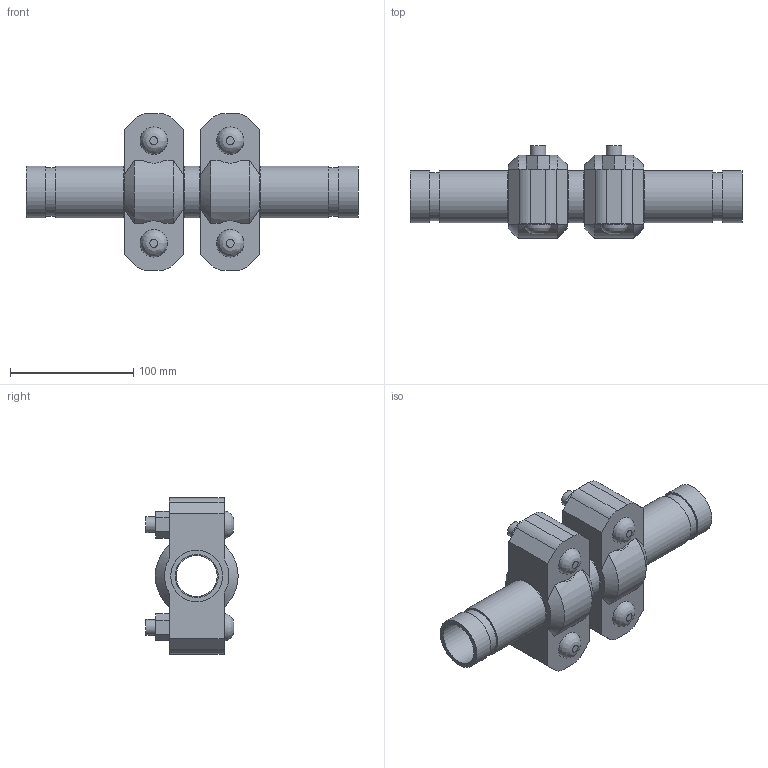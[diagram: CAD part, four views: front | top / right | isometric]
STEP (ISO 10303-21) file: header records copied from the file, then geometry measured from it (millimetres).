
FILE_DESCRIPTION(/* description */ ('VIC EXPANSION JOINT 2 COUPLINGS EXPANDED STYLE 155 (OGS)','CAx-IF Rec.Pracs.---Representation and Presentation of Product Manufacturing Information (PMI)---4.0---2014-10-13'),/* implementation_level */ '2;1');
FILE_NAME(/* name */ 'C:\Users\kkamble\AppData\Roaming\Autodesk\ApplicationPlugins\Victaulic.Temp\A706\Victaulic_IPS_Expansion Joint_Expanded_2 Couplings_Style 155 (OGS)_1.25 (32).stp',/* time_stamp */ '2021-06-26T23:56:02+02:00',/* author */ ('kkamble'),/* organization */ ('Victaulic'),/* preprocessor_version */ 'ST-DEVELOPER v17.2',/* originating_system */ 'Autodesk Inventor 2019',/* authorisation */ '');
FILE_SCHEMA (('AP242_MANAGED_MODEL_BASED_3D_ENGINEERING_MIM_LF { 1 0 10303 442 1 1 4 }'));
Length unit declared in the file: inch
Products named in the file (4): 155-01.25; Nipple-01.25; Nipple-01.25_1; 077-01.25
Assembly tree (5 placements, depth 2):
  155-01.25
    Nipple-01.25  x2
    Nipple-01.25_1
    077-01.25  x2
Bounding box: 269.49 x 74.93 x 127 mm (x, y, z)
Volume: 567436.8 mm3; surface area: 153156.1 mm2
Topology: 5 solids, 9 shells, 158 faces, 380 edges, 268 vertices
Faces by surface type: plane 90, cylinder 56, cone 8, bspline 4
Full cylindrical faces by diameter (mm): 12.7 x8, 14.605 x4, 33.274 x2, 35.052 x3, 38.989 x6, 42.164 x13
Entity records: 2921 total; most frequent: CARTESIAN_POINT 549, DIRECTION 473, ORIENTED_EDGE 410, EDGE_CURVE 205, AXIS2_PLACEMENT_3D 188, VERTEX_POINT 146, EDGE_LOOP 111, LINE 97
